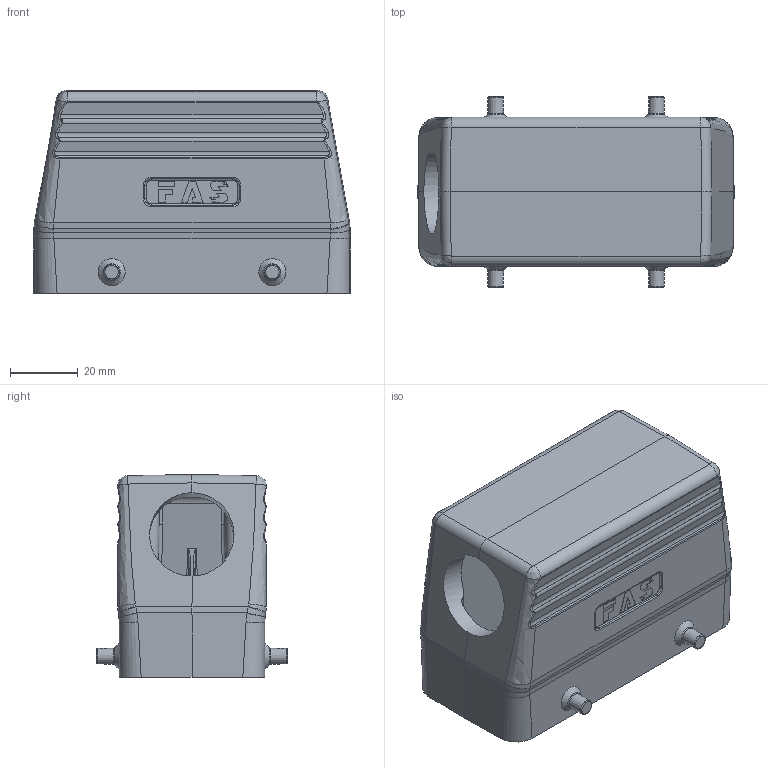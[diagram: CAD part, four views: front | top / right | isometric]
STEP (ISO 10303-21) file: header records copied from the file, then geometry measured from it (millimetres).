
FILE_DESCRIPTION (( 'STEP AP203' ), '1' );
FILE_NAME ('H16B-TS-M25.STEP', '2023-06-07T08:37:04', ( '' ), ( '' ), 'SwSTEP 2.0', 'SolidWorks 2016', '' );
FILE_SCHEMA (( 'CONFIG_CONTROL_DESIGN' ));
Length unit declared in the file: millimetre
Products named in the file (1): H16B-TS-M25
Bounding box: 93.5 x 56.4 x 60 mm (x, y, z)
Volume: 72894.1 mm3; surface area: 34673.9 mm2
Topology: 1 solids, 1 shells, 485 faces, 1184 edges, 728 vertices
Faces by surface type: plane 170, cylinder 133, bspline 130, cone 24, torus 24, sphere 4
Full cylindrical faces by diameter (mm): 25 x1
Entity records: 22771 total; most frequent: CARTESIAN_POINT 12830, ORIENTED_EDGE 2282, DIRECTION 1622, EDGE_CURVE 1141, VERTEX_POINT 718, AXIS2_PLACEMENT_3D 559, EDGE_LOOP 547, LINE 504
